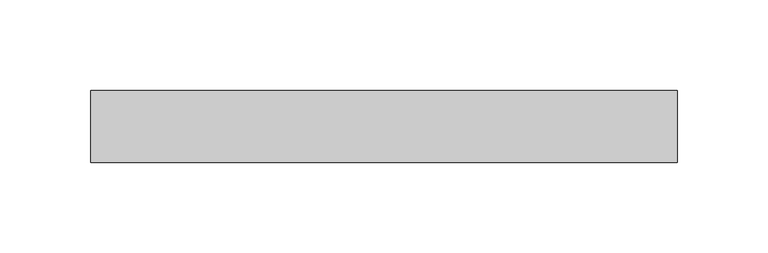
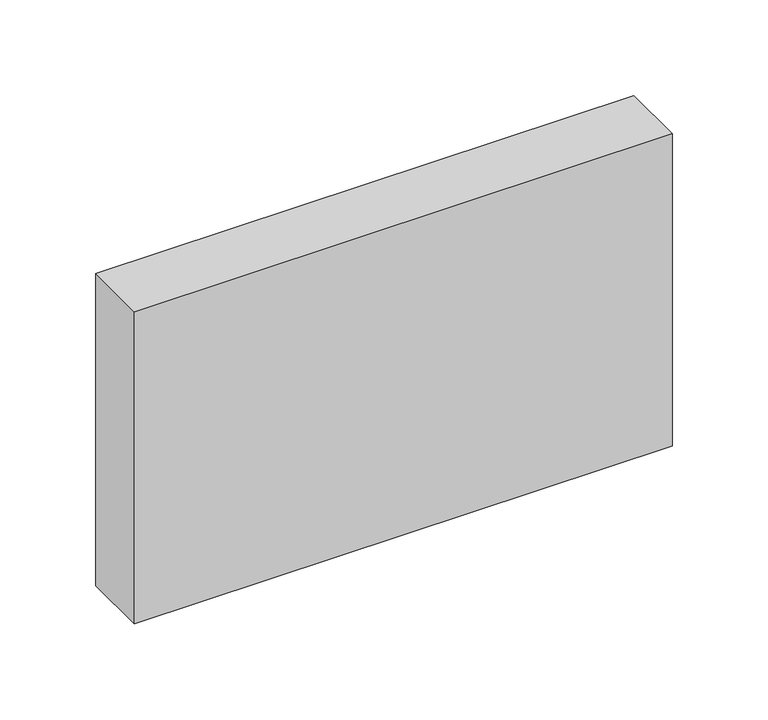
"""IFC4 building model written with IfcOpenShell, lengths in millimetres: plate geometry, Panneau système vide : Epaiss. 4cm."""

from ifc_helpers import new_model, si_unit, origin, origin_with_axes, place, context, project, spatial, polyline, outline, extrude, source, transform, mapped, element, save


def plate_dc1bbceb(model_context):
    return source(origin(), model_context, "Body", "SweptSolid", [
        extrude(outline(polyline([(162.15, -20.0), (-162.15, -20.0), (-162.15, 20.0), (162.15, 20.0), (162.15, -20.0)])), origin_with_axes(), (0.0, 0.0, 1.0), 199.0),
    ])


if __name__ == "__main__":
    model = new_model("IFC4")
    model_context = context("Model", 3, world=origin())
    ifc_project = project(units=[si_unit("LENGTHUNIT", "METRE", prefix="MILLI")], contexts=[model_context])
    site = spatial("IfcSite", under=ifc_project)
    building = spatial("IfcBuilding", under=site)
    placement = place(None, origin())
    plate_shape = plate_dc1bbceb(model_context)
    element("IfcPlate", 1, ObjectType="Panneau système vide : Epaiss. 4cm", at=placement, inside=building, context=model_context, shape_type="MappedRepresentation", body=[
        mapped(plate_shape, transform((0.0, 0.0, 0.0), x_axis=(1.0, 0.0, 0.0), y_axis=(0.0, 1.0, 0.0), z_axis=(0.0, 0.0, 1.0))),
    ])
    save(model, "model.ifc")
